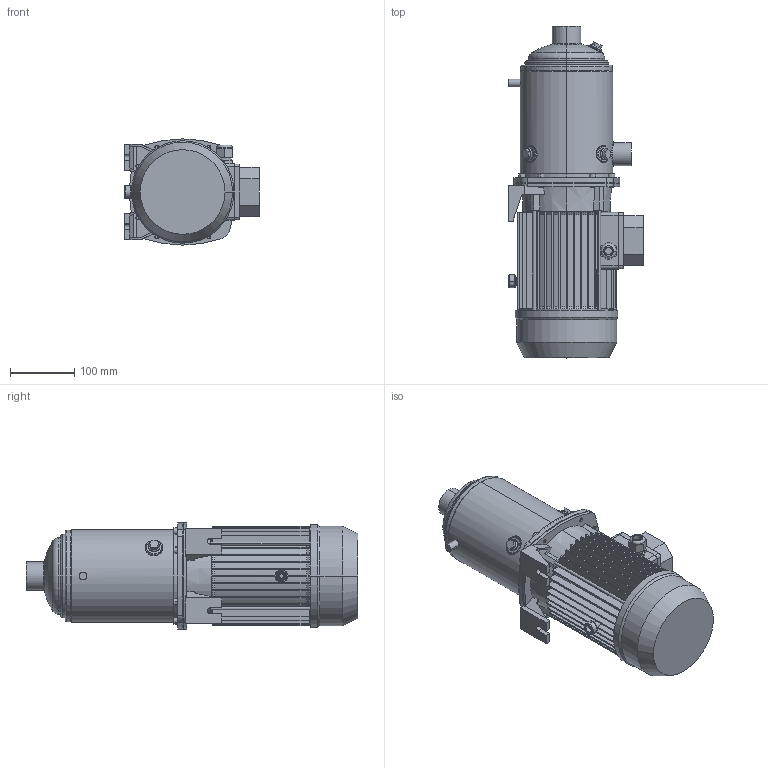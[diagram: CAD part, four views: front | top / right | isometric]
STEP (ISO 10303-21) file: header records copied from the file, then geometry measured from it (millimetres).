
FILE_DESCRIPTION((''),'2;1');
FILE_NAME('MATRIX_5-7T_1_5_IE3_ASM','2018-06-01T',('rosa'),('"Ebara Pumps Europe +39.444.706811"'),'PRO/ENGINEER BY PARAMETRIC TECHNOLOGY CORPORATION, 2012130','PRO/ENGINEER BY PARAMETRIC TECHNOLOGY CORPORATION, 2012130','');
FILE_SCHEMA(('AUTOMOTIVE_DESIGN { 1 0 10303 214 1 1 1 1 }'));
Length unit declared in the file: millimetre
Products named in the file (5): CORPO_POMPA_MATRIX_5-7; SUPPORTO_MATRIX_MEC_80; MEC_80X130_IE3; 72229; MATRIX_5-7T_1_5_IE3_ASM
Assembly tree (4 placements, depth 2):
  MATRIX_5-7T_1_5_IE3_ASM
    CORPO_POMPA_MATRIX_5-7
    SUPPORTO_MATRIX_MEC_80
    MEC_80X130_IE3
    72229
Bounding box: 209 x 515.8 x 165 mm (x, y, z)
Volume: 6147356.1 mm3; surface area: 600569.6 mm2
Topology: 4 solids, 4 shells, 721 faces, 1735 edges, 1071 vertices
Faces by surface type: plane 378, cylinder 188, cone 102, torus 37, bspline 14, sphere 2
Entity records: 28341 total; most frequent: CARTESIAN_POINT 5545, DIRECTION 3670, ORIENTED_EDGE 3470, EDGE_CURVE 1735, PRESENTATION_STYLE_ASSIGNMENT 1688, STYLED_ITEM 1688, CURVE_STYLE 1685, AXIS2_PLACEMENT_3D 1405
